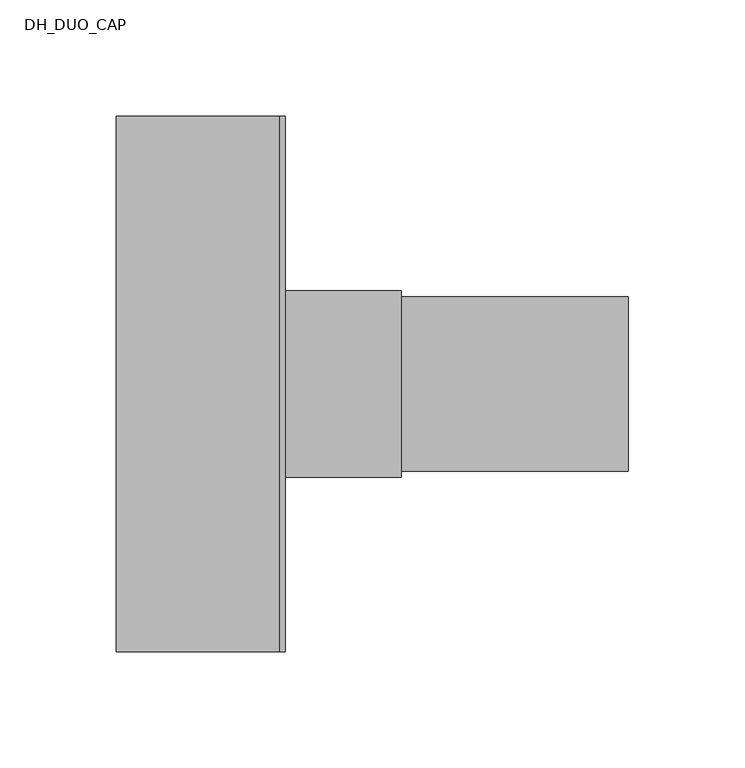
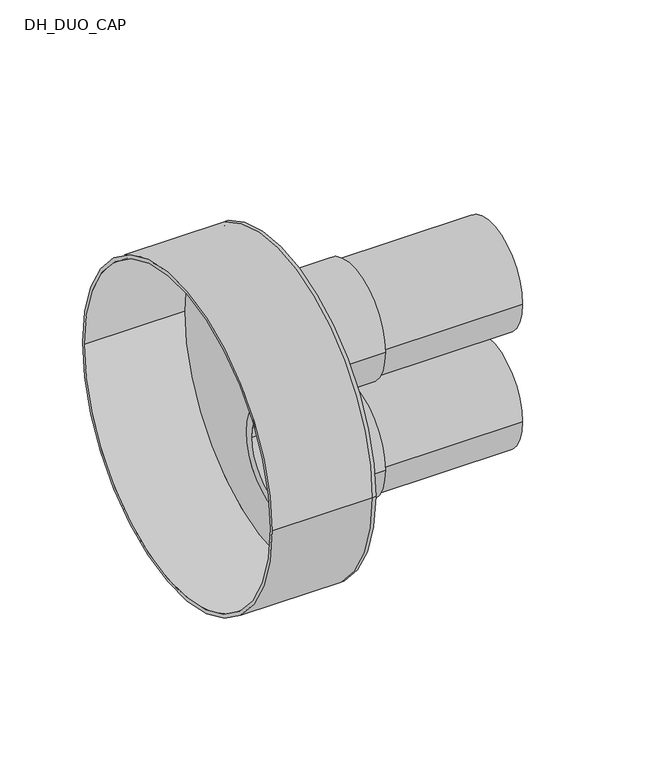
"""IFC4 building model written with IfcOpenShell, lengths in millimetres: pipe fitting geometry, DH_DUO_CAP : RAUVIPEX DUO 11 Heating - Rubber Cap."""

from ifc_helpers import new_model, si_unit, point, frame, frame_2d, origin, place, context, project, spatial, polyline, circle_curve, trimmed, segment, composite_curve, outline, extrude, source, transform, mapped, element, save
from ifc_brep_helpers import plane_surface, cylinder_surface, revolved_surface, advanced_brep


def dh_duo_cap_d412eddf(model_context):
    return source(origin(), model_context, "Body", "SolidModel", [
        extrude(outline(composite_curve([segment(trimmed(circle_curve(frame_2d((0.0, -43.5)), 37.5), [point((-37.5, -43.5))], [point((37.5, -43.5))], False, "CARTESIAN"), True, "CONTINUOUS"), segment(trimmed(circle_curve(frame_2d((0.0, -43.5)), 37.5), [point((37.5, -43.5))], [point((-37.5, -43.5))], False, "CARTESIAN"), True, "CONTINUOUS")], self_intersect=False), holes=[composite_curve([segment(trimmed(circle_curve(frame_2d((0.0, -43.5)), 30.7), [point((-30.7, -43.5))], [point((30.7, -43.5))], True, "CARTESIAN"), True, "CONTINUOUS"), segment(trimmed(circle_curve(frame_2d((0.0, -43.5)), 30.7), [point((30.7, -43.5))], [point((-30.7, -43.5))], True, "CARTESIAN"), True, "CONTINUOUS")], self_intersect=False)]), frame((0.0, 0.0, 0.0), z_axis=(1.0, 0.0, 0.0), x_axis=(0.0, 1.0, 0.0)), (0.0, 0.0, 1.0), 150.0),
        extrude(outline(composite_curve([segment(trimmed(circle_curve(frame_2d((0.0, 43.5)), 37.5), [point((-37.5, 43.5))], [point((37.5, 43.5))], False, "CARTESIAN"), True, "CONTINUOUS"), segment(trimmed(circle_curve(frame_2d((0.0, 43.5)), 37.5), [point((37.5, 43.5))], [point((-37.5, 43.5))], False, "CARTESIAN"), True, "CONTINUOUS")], self_intersect=False), holes=[composite_curve([segment(trimmed(circle_curve(frame_2d((0.0, 43.5)), 30.7), [point((-30.7, 43.5))], [point((30.7, 43.5))], True, "CARTESIAN"), True, "CONTINUOUS"), segment(trimmed(circle_curve(frame_2d((0.0, 43.5)), 30.7), [point((30.7, 43.5))], [point((-30.7, 43.5))], True, "CARTESIAN"), True, "CONTINUOUS")], self_intersect=False)]), frame((0.0, 0.0, 0.0), z_axis=(1.0, 0.0, 0.0), x_axis=(0.0, 1.0, 0.0)), (0.0, 0.0, 1.0), 150.0),
        advanced_brep(
        [(-70.0, -115.0, 0.0), (-70.0, 115.0, 0.0), (-70.0, -112.5, 0.0), (-70.0, 112.5, 0.0), (0.0, -112.5, 0.0), (0.0, 112.5, 0.0), (0.0, -115.0, 0.0), (0.0, 115.0, 0.0), (0.0, 37.5, 43.5), (0.0, -37.5, 43.5), (0.0, 37.5, -43.5), (0.0, -37.5, -43.5), (2.5, -115.0, 0.0), (2.5, 115.0, 0.0), (2.5, -37.5, 43.5), (2.5, 37.5, 43.5), (2.5, -37.5, -43.5), (2.5, 37.5, -43.5)],
        [
            (0, 1, circle_curve(frame((-70.0, 0.0, 0.0), z_axis=(-1.0, 0.0, 0.0), x_axis=(0.0, 1.0, 0.0)), 115.0)),
            (1, 0, circle_curve(frame((-70.0, 0.0, 0.0), z_axis=(-1.0, 0.0, 0.0), x_axis=(0.0, 1.0, 0.0)), 115.0)),
            (2, 3, circle_curve(frame((-70.0, 0.0, 0.0), z_axis=(1.0, 0.0, 0.0), x_axis=(0.0, 1.0, 0.0)), 112.5)),
            (3, 2, circle_curve(frame((-70.0, 0.0, 0.0), z_axis=(1.0, 0.0, 0.0), x_axis=(0.0, 1.0, 0.0)), 112.5)),
            (2, 4),
            (4, 5, circle_curve(frame((0.0, 0.0, 0.0), z_axis=(1.0, 0.0, 0.0), x_axis=(0.0, 1.0, 0.0)), 112.5)),
            (5, 3),
            (5, 4, circle_curve(frame((0.0, 0.0, 0.0), z_axis=(1.0, 0.0, 0.0), x_axis=(0.0, 1.0, 0.0)), 112.5)),
            (0, 6),
            (6, 7, circle_curve(frame((0.0, 0.0, 0.0), z_axis=(-1.0, 0.0, 0.0), x_axis=(0.0, 1.0, 0.0)), 115.0)),
            (7, 1),
            (7, 6, circle_curve(frame((0.0, 0.0, 0.0), z_axis=(-1.0, 0.0, 0.0), x_axis=(0.0, 1.0, 0.0)), 115.0)),
            (8, 9, circle_curve(frame((0.0, 0.0, 43.5), z_axis=(1.0, 0.0, 0.0), x_axis=(0.0, 1.0, 0.0)), 37.5)),
            (9, 8, circle_curve(frame((0.0, 0.0, 43.5), z_axis=(1.0, 0.0, 0.0), x_axis=(0.0, 1.0, 0.0)), 37.5)),
            (10, 11, circle_curve(frame((0.0, 0.0, -43.5), z_axis=(1.0, 0.0, 0.0), x_axis=(0.0, 1.0, 0.0)), 37.5)),
            (11, 10, circle_curve(frame((0.0, 0.0, -43.5), z_axis=(1.0, 0.0, 0.0), x_axis=(0.0, 1.0, 0.0)), 37.5)),
            (12, 13, circle_curve(frame((2.5, 0.0, 0.0), z_axis=(1.0, 0.0, 0.0), x_axis=(0.0, 1.0, 0.0)), 115.0)),
            (13, 12, circle_curve(frame((2.5, 0.0, 0.0), z_axis=(1.0, 0.0, 0.0), x_axis=(0.0, 1.0, 0.0)), 115.0)),
            (14, 15, circle_curve(frame((2.5, 0.0, 43.5), z_axis=(-1.0, 0.0, 0.0), x_axis=(0.0, 1.0, 0.0)), 37.5)),
            (15, 14, circle_curve(frame((2.5, 0.0, 43.5), z_axis=(-1.0, 0.0, 0.0), x_axis=(0.0, 1.0, 0.0)), 37.5)),
            (16, 17, circle_curve(frame((2.5, 0.0, -43.5), z_axis=(-1.0, 0.0, 0.0), x_axis=(0.0, 1.0, 0.0)), 37.5)),
            (17, 16, circle_curve(frame((2.5, 0.0, -43.5), z_axis=(-1.0, 0.0, 0.0), x_axis=(0.0, 1.0, 0.0)), 37.5)),
            (13, 7),
            (6, 12),
            (8, 15),
            (14, 9),
            (10, 17),
            (16, 11),
        ],
        [
            plane_surface(frame((-70.0, 0.0, 0.0), z_axis=(-1.0, 0.0, 0.0), x_axis=(0.0, 0.0, 1.0))),
            revolved_surface(polyline([(0.0, 112.5, 0.0), (-70.0, 112.5, 0.0)]), (-70.0, 0.0, 0.0), (1.0, 0.0, 0.0)),
            cylinder_surface(frame((-70.0, 0.0, 0.0), z_axis=(-1.0, 0.0, 0.0), x_axis=(0.0, 1.0, 0.0)), 115.0),
            plane_surface(frame((0.0, 0.0, 0.0), z_axis=(-1.0, 0.0, 0.0), x_axis=(0.0, 0.0, 1.0))),
            plane_surface(frame((2.5, 0.0, 0.0), z_axis=(1.0, 0.0, 0.0), x_axis=(0.0, 0.0, 1.0))),
            cylinder_surface(frame((0.0, 0.0, 0.0), z_axis=(-1.0, 0.0, 0.0), x_axis=(0.0, 1.0, 0.0)), 115.0),
            revolved_surface(polyline([(0.0, 37.5, 43.5), (2.5, 37.5, 43.5)]), (0.0, 0.0, 43.5), (-1.0, 0.0, 0.0)),
            revolved_surface(polyline([(0.0, 37.5, -43.5), (2.5, 37.5, -43.5)]), (0.0, 0.0, -43.5), (-1.0, 0.0, 0.0)),
        ],
        [
            (0, [[1, 2], [3, 4]]),
            (1, [[-3, 5, 6, 7]]),
            (1, [[-4, -7, 8, -5]]),
            (2, [[-1, 9, 10, 11]]),
            (2, [[-2, -11, 12, -9]]),
            (3, [[-6, -8], [13, 14], [15, 16]]),
            (4, [[17, 18], [19, 20], [21, 22]]),
            (5, [[-18, 23, -10, 24]]),
            (5, [[-17, -24, -12, -23]]),
            (6, [[25, -19, 26, -13]]),
            (6, [[-25, -14, -26, -20]]),
            (7, [[27, -21, 28, -15]]),
            (7, [[-27, -16, -28, -22]]),
        ],
    ),
        extrude(outline(composite_curve([segment(trimmed(circle_curve(frame_2d((0.0, -43.5)), 40.0), [point((-40.0, -43.5))], [point((40.0, -43.5))], False, "CARTESIAN"), True, "CONTINUOUS"), segment(trimmed(circle_curve(frame_2d((0.0, -43.5)), 40.0), [point((40.0, -43.5))], [point((-40.0, -43.5))], False, "CARTESIAN"), True, "CONTINUOUS")], self_intersect=False), holes=[composite_curve([segment(trimmed(circle_curve(frame_2d((0.0, -43.5)), 37.5), [point((-37.5, -43.5))], [point((37.5, -43.5))], True, "CARTESIAN"), True, "CONTINUOUS"), segment(trimmed(circle_curve(frame_2d((0.0, -43.5)), 37.5), [point((37.5, -43.5))], [point((-37.5, -43.5))], True, "CARTESIAN"), True, "CONTINUOUS")], self_intersect=False)]), frame((2.5, 0.0, 0.0), z_axis=(1.0, 0.0, 0.0), x_axis=(0.0, 1.0, 0.0)), (0.0, 0.0, 1.0), 50.0),
        extrude(outline(composite_curve([segment(trimmed(circle_curve(frame_2d((0.0, 43.5)), 40.0), [point((-40.0, 43.5))], [point((40.0, 43.5))], False, "CARTESIAN"), True, "CONTINUOUS"), segment(trimmed(circle_curve(frame_2d((0.0, 43.5)), 40.0), [point((40.0, 43.5))], [point((-40.0, 43.5))], False, "CARTESIAN"), True, "CONTINUOUS")], self_intersect=False), holes=[composite_curve([segment(trimmed(circle_curve(frame_2d((0.0, 43.5)), 37.5), [point((-37.5, 43.5))], [point((37.5, 43.5))], True, "CARTESIAN"), True, "CONTINUOUS"), segment(trimmed(circle_curve(frame_2d((0.0, 43.5)), 37.5), [point((37.5, 43.5))], [point((-37.5, 43.5))], True, "CARTESIAN"), True, "CONTINUOUS")], self_intersect=False)]), frame((2.5, 0.0, 0.0), z_axis=(1.0, 0.0, 0.0), x_axis=(0.0, 1.0, 0.0)), (0.0, 0.0, 1.0), 50.0),
    ])


if __name__ == "__main__":
    model = new_model("IFC4")
    model_context = context("Model", 3, world=origin())
    ifc_project = project(units=[si_unit("LENGTHUNIT", "METRE", prefix="MILLI")], contexts=[model_context])
    site = spatial("IfcSite", under=ifc_project)
    building = spatial("IfcBuilding", under=site)
    placement = place(None, origin())
    dh_duo_cap_shape = dh_duo_cap_d412eddf(model_context)
    element("IfcPipeFitting", 1, ObjectType="DH_DUO_CAP : RAUVIPEX DUO 11 Heating - Rubber Cap", at=placement, inside=building, context=model_context, shape_type="MappedRepresentation", body=[
        mapped(dh_duo_cap_shape, transform((0.0, 0.0, 0.0), x_axis=(1.0, 0.0, 0.0), y_axis=(0.0, 1.0, 0.0), z_axis=(0.0, 0.0, 1.0))),
    ])
    save(model, "model.ifc")
